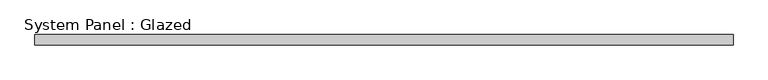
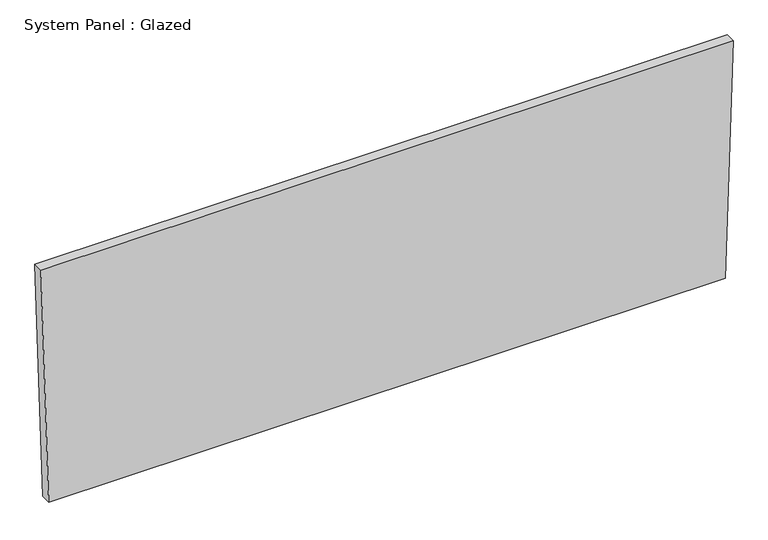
"""IFC4 building model written with IfcOpenShell, lengths in millimetres: plate geometry, System Panel : Glazed."""

import ifcopenshell
import ifcopenshell.guid

model = None  # the IFC model being written
_history = None  # IfcOwnerHistory: only IFC2X3 demands one
_inside = {}  # id of a spatial element -> (the spatial element, [elements in it])
_under = {}  # id of a project, library or spatial element -> (it, [spatial elements below it])
_declared = {}  # id of a project -> (the project, [libraries it declares])
_typed = {}  # id of a type object -> (the type object, [elements of that type])
_made_of = {}  # id of a material, layer set ... -> (it, [elements and type objects made of it])


def new_model(schema):
    """Start an empty IFC model of exactly this schema.

    Asked for "IFC4X3", IfcOpenShell would pick the latest addendum, in which some entities
    have other attributes; the version numbers below select the first issue.
    IFC2X3 requires an IfcOwnerHistory on every rooted entity: one is made here for all.
    """
    global model, _history
    if schema == "IFC4X3":
        model = ifcopenshell.file(schema_version=(4, 3, 0, 0))
    else:
        model = ifcopenshell.file(schema=schema)
    _inside.clear()
    _under.clear()
    _declared.clear()
    _typed.clear()
    _made_of.clear()
    _history = None
    if model.schema == "IFC2X3":
        org = make("IfcOrganization", Name="unknown")
        user = make(
            "IfcPersonAndOrganization",
            ThePerson=make("IfcPerson", FamilyName="unknown"),
            TheOrganization=org,
        )
        app = make(
            "IfcApplication",
            ApplicationDeveloper=org,
            Version="unknown",
            ApplicationFullName="unknown",
            ApplicationIdentifier="unknown",
        )
        _history = make(
            "IfcOwnerHistory",
            OwningUser=user,
            OwningApplication=app,
            ChangeAction="ADDED",
            CreationDate=0,
        )
    return model


def make(cls, **values):
    """One entity of the class cls with the attributes given. An attribute that is None is left unset."""
    return model.create_entity(
        cls, **{name: value for name, value in values.items() if value is not None}
    )


def rooted(cls, **values):
    """An entity with a GlobalId (a new one), such as an element, a storey or a relation."""
    return make(cls, GlobalId=ifcopenshell.guid.new(), OwnerHistory=_history, **values)


def si_unit(unit_type, name, prefix=None):
    """IfcSIUnit, for example si_unit("LENGTHUNIT", "METRE", prefix="MILLI")."""
    return make("IfcSIUnit", UnitType=unit_type, Prefix=prefix, Name=name)


def assignment(units):
    """IfcUnitAssignment: the units of a project."""
    return None if units is None else make("IfcUnitAssignment", Units=units)


def point(xyz):
    """IfcCartesianPoint."""
    return None if xyz is None else make("IfcCartesianPoint", Coordinates=xyz)


def direction(xyz):
    """IfcDirection."""
    return None if xyz is None else make("IfcDirection", DirectionRatios=xyz)


def frame(location, z_axis=None, x_axis=None):
    """IfcAxis2Placement3D, a coordinate frame: its origin and axes. An axis left out is left unset."""
    return make(
        "IfcAxis2Placement3D",
        Location=point(location),
        Axis=direction(z_axis),
        RefDirection=direction(x_axis),
    )


def origin():
    """The frame at (0, 0, 0) with its axes left unset."""
    return frame((0.0, 0.0, 0.0))


def place(relative_to, where):
    """IfcLocalPlacement: puts the frame where relative to a parent placement (None: the world)."""
    return make(
        "IfcLocalPlacement", PlacementRelTo=relative_to, RelativePlacement=where
    )


def context(
    kind, dimensions, precision=None, world=None, true_north=None, identifier=None
):
    """IfcGeometricRepresentationContext, for example the 3D "Model" context."""
    return make(
        "IfcGeometricRepresentationContext",
        ContextIdentifier=identifier,
        ContextType=kind,
        CoordinateSpaceDimension=dimensions,
        Precision=precision,
        WorldCoordinateSystem=world,
        TrueNorth=true_north,
    )


def project(units=None, contexts=None):
    """IfcProject with its units and contexts."""
    return rooted(
        "IfcProject",
        Name="project",
        RepresentationContexts=contexts,
        UnitsInContext=assignment(units),
    )


def spatial(cls, under=None, at=None, **own):
    """A site, building, storey or space (cls), placed at a placement, below another one or the project."""
    s = rooted(cls, ObjectPlacement=at, **own)
    if under is not None:
        _under.setdefault(under.id(), (under, []))[1].append(s)
    return s


def polyline(points):
    """IfcPolyline through the points."""
    return make("IfcPolyline", Points=[point(p) for p in points])


def outline(outer, holes=None, kind="AREA"):
    """IfcArbitraryClosedProfileDef: a profile drawn as a closed curve; with holes, ...WithVoids."""
    if holes is None:
        return make("IfcArbitraryClosedProfileDef", ProfileType=kind, OuterCurve=outer)
    return make(
        "IfcArbitraryProfileDefWithVoids",
        ProfileType=kind,
        OuterCurve=outer,
        InnerCurves=holes,
    )


def extrude(swept, where, along, depth):
    """IfcExtrudedAreaSolid: the profile swept, set in the frame where, extruded along a direction by depth."""
    return make(
        "IfcExtrudedAreaSolid",
        SweptArea=swept,
        Position=where,
        ExtrudedDirection=direction(along),
        Depth=depth,
    )


def shape(context_of_items, identifier, shape_type, items):
    """IfcShapeRepresentation: the items that make up one representation, for example the "Body"."""
    return make(
        "IfcShapeRepresentation",
        ContextOfItems=context_of_items,
        RepresentationIdentifier=identifier,
        RepresentationType=shape_type,
        Items=items,
    )


def source(mapping_origin, context_of_items, identifier, shape_type, items):
    """IfcRepresentationMap: a shape defined once, which mapped items show again and again."""
    return make(
        "IfcRepresentationMap",
        MappingOrigin=mapping_origin,
        MappedRepresentation=shape(context_of_items, identifier, shape_type, items),
    )


def transform(
    local_origin,
    x_axis=None,
    y_axis=None,
    z_axis=None,
    scale=None,
    scale2=None,
    scale3=None,
    uniform=True,
):
    """IfcCartesianTransformationOperator3D, or its non-uniform kind. x_axis, y_axis, z_axis: its Axis1, 2, 3."""
    if uniform:
        return make(
            "IfcCartesianTransformationOperator3D",
            Axis1=direction(x_axis),
            Axis2=direction(y_axis),
            LocalOrigin=point(local_origin),
            Scale=scale,
            Axis3=direction(z_axis),
        )
    return make(
        "IfcCartesianTransformationOperator3DnonUniform",
        Axis1=direction(x_axis),
        Axis2=direction(y_axis),
        LocalOrigin=point(local_origin),
        Scale=scale,
        Axis3=direction(z_axis),
        Scale2=scale2,
        Scale3=scale3,
    )


def mapped(mapping_source, mapping_target):
    """IfcMappedItem: shows the shape of a source again, moved by a transform."""
    return make(
        "IfcMappedItem", MappingSource=mapping_source, MappingTarget=mapping_target
    )


def made_of(thing, what):
    """Note that an element or type object is made of a material, layer set ...; save() writes the relation."""
    if what is not None:
        _made_of.setdefault(what.id(), (what, []))[1].append(thing)
    return thing


def element(
    cls,
    number,
    at=None,
    inside=None,
    cuts=None,
    type_object=None,
    material=None,
    context=None,
    identifier="Body",
    shape_type=None,
    held_by="IfcProductDefinitionShape",
    body=None,
    shapes=None,
    **own,
):
    """One element of the class cls, such as IfcWall. Its Tag is "e" and its number.

    at: its placement. inside: the storey or other place that contains it. cuts: it is an
    opening in that element (IfcRelVoidsElement). A single representation is given by context,
    identifier, shape_type and body (its items); several are given by shapes. held_by: the class
    of the entity that holds the representations. save() writes the other relations.
    """
    e = rooted(cls, Tag="e%d" % number, ObjectPlacement=at, **own)
    if body is not None:
        shapes = [shape(context, identifier, shape_type, body)]
    if shapes is not None:
        e.Representation = make(held_by, Representations=shapes)
    if inside is not None:
        _inside.setdefault(inside.id(), (inside, []))[1].append(e)
    if cuts is not None:
        rooted(
            "IfcRelVoidsElement", RelatingBuildingElement=cuts, RelatedOpeningElement=e
        )
    if type_object is not None:
        _typed.setdefault(type_object.id(), (type_object, []))[1].append(e)
    return made_of(e, material)


def aggregate(whole, parts):
    """IfcRelAggregates: a whole, such as a stair, and the parts it consists of."""
    return rooted("IfcRelAggregates", RelatingObject=whole, RelatedObjects=parts)


def save(model, path):
    """Write the relations noted so far, then the file.

    IfcRelAggregates (storeys below a building ...), IfcRelContainedInSpatialStructure (elements
    in a storey), IfcRelDefinesByType, IfcRelAssociatesMaterial and IfcRelDeclares: one each for
    every whole, place, type object, material and project.
    """
    for whole, parts in _under.values():
        aggregate(whole, parts)
    for where, things in _inside.values():
        rooted(
            "IfcRelContainedInSpatialStructure",
            RelatedElements=things,
            RelatingStructure=where,
        )
    for kind, things in _typed.values():
        rooted("IfcRelDefinesByType", RelatedObjects=things, RelatingType=kind)
    for what, things in _made_of.values():
        rooted("IfcRelAssociatesMaterial", RelatedObjects=things, RelatingMaterial=what)
    for by, libraries in _declared.values():
        rooted("IfcRelDeclares", RelatingContext=by, RelatedDefinitions=libraries)
    model.write(path)


def system_panel_glazed_9270b77d(model_context):
    return source(origin(), model_context, "Body", "SweptSolid", [
        extrude(outline(polyline([(0.0, -830.8128655), (0.0, 830.8128655), (609.3090078, 849.64616), (609.3090078, -849.64616), (0.0, -830.8128655)])), frame((0.0, -44.45, 0.0), z_axis=(0.0, 1.0, 0.0), x_axis=(0.0, 0.0, 1.0)), (0.0, 0.0, 1.0), 25.4),
    ])


if __name__ == "__main__":
    model = new_model("IFC4")
    model_context = context("Model", 3, world=origin())
    ifc_project = project(units=[si_unit("LENGTHUNIT", "METRE", prefix="MILLI")], contexts=[model_context])
    site = spatial("IfcSite", under=ifc_project)
    building = spatial("IfcBuilding", under=site)
    placement = place(None, origin())
    system_panel_glazed_shape = system_panel_glazed_9270b77d(model_context)
    element("IfcPlate", 1, ObjectType="System Panel : Glazed", at=placement, inside=building, context=model_context, shape_type="MappedRepresentation", body=[
        mapped(system_panel_glazed_shape, transform((0.0, 0.0, 0.0), x_axis=(1.0, 0.0, 0.0), y_axis=(0.0, 1.0, 0.0), z_axis=(0.0, 0.0, 1.0))),
    ])
    save(model, "model.ifc")
